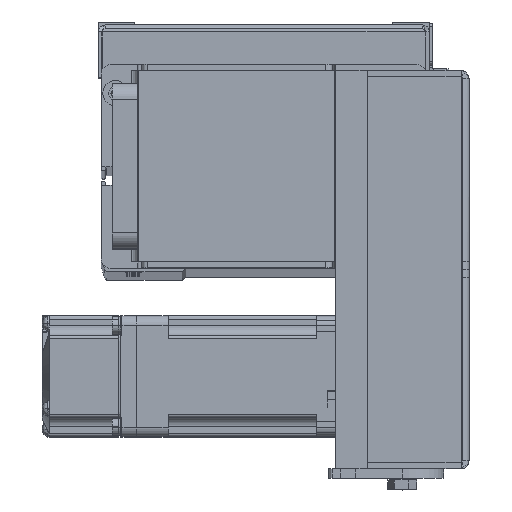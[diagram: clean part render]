
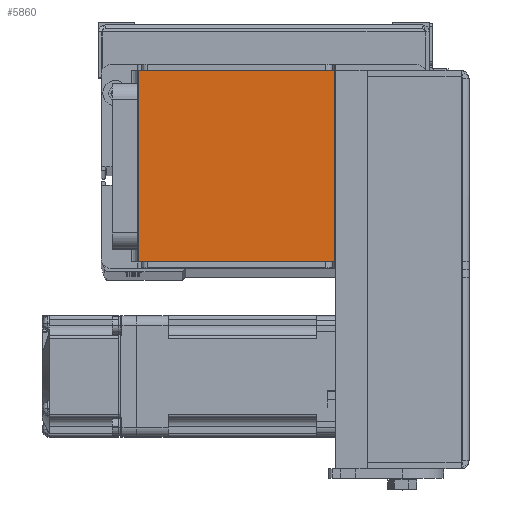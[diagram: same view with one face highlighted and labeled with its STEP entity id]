
A CAD part, top view. The second image highlights one B-rep face of the part: STEP entity #5860.
In plain terms, the highlighted planar face has unit normal (0, 0, 1) as drawn and (0, 1, 0) by its records, which use the part's own axes.
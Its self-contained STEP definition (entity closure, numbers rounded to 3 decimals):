
#273 = DIRECTION ( 'NONE',  ( -1., 0., 0. ) ) ;
#900 = CARTESIAN_POINT ( 'NONE',  ( 30.7, 88., -62. ) ) ;
#1392 = EDGE_LOOP ( 'NONE', ( #33247, #26421, #7374, #23462 ) ) ;
#2442 = LINE ( 'NONE', #35911, #36055 ) ;
#3144 = CARTESIAN_POINT ( 'NONE',  ( -30.7, 88., -2. ) ) ;
#3317 = CARTESIAN_POINT ( 'NONE',  ( 30.7, 88., -2. ) ) ;
#5860 = ADVANCED_FACE ( 'NONE', ( #19917 ), #10513, .T. ) ;
#7374 = ORIENTED_EDGE ( 'NONE', *, *, #16555, .F. ) ;
#8358 = DIRECTION ( 'NONE',  ( -1., 0., 0. ) ) ;
#8970 = CARTESIAN_POINT ( 'NONE',  ( -30.7, 88., -64. ) ) ;
#9465 = LINE ( 'NONE', #18679, #11830 ) ;
#10513 = PLANE ( 'NONE',  #32437 ) ;
#11830 = VECTOR ( 'NONE', #20843, 1000. ) ;
#12606 = CARTESIAN_POINT ( 'NONE',  ( -31., 88., -2. ) ) ;
#14234 = CARTESIAN_POINT ( 'NONE',  ( 30.7, 88., -64. ) ) ;
#15377 = EDGE_CURVE ( 'NONE', #23894, #29988, #9465, .T. ) ;
#16555 = EDGE_CURVE ( 'NONE', #24036, #37164, #30602, .T. ) ;
#18679 = CARTESIAN_POINT ( 'NONE',  ( -31., 88., -62. ) ) ;
#19412 = VECTOR ( 'NONE', #273, 1000. ) ;
#19917 = FACE_OUTER_BOUND ( 'NONE', #1392, .T. ) ;
#20843 = DIRECTION ( 'NONE',  ( 1., 0., 0. ) ) ;
#23462 = ORIENTED_EDGE ( 'NONE', *, *, #34583, .F. ) ;
#23609 = DIRECTION ( 'NONE',  ( 0., 0., 1. ) ) ;
#23894 = VERTEX_POINT ( 'NONE', #28446 ) ;
#24036 = VERTEX_POINT ( 'NONE', #3317 ) ;
#26171 = DIRECTION ( 'NONE',  ( 0., 0., 1. ) ) ;
#26421 = ORIENTED_EDGE ( 'NONE', *, *, #33140, .T. ) ;
#28446 = CARTESIAN_POINT ( 'NONE',  ( -30.7, 88., -62. ) ) ;
#29988 = VERTEX_POINT ( 'NONE', #900 ) ;
#30602 = LINE ( 'NONE', #12606, #19412 ) ;
#31841 = DIRECTION ( 'NONE',  ( 0., 1., 0. ) ) ;
#32437 = AXIS2_PLACEMENT_3D ( 'NONE', #14234, #31841, #8358 ) ;
#32837 = LINE ( 'NONE', #8970, #33559 ) ;
#33140 = EDGE_CURVE ( 'NONE', #23894, #37164, #32837, .T. ) ;
#33247 = ORIENTED_EDGE ( 'NONE', *, *, #15377, .F. ) ;
#33559 = VECTOR ( 'NONE', #26171, 1000. ) ;
#34583 = EDGE_CURVE ( 'NONE', #29988, #24036, #2442, .T. ) ;
#35911 = CARTESIAN_POINT ( 'NONE',  ( 30.7, 88., -64. ) ) ;
#36055 = VECTOR ( 'NONE', #23609, 1000. ) ;
#37164 = VERTEX_POINT ( 'NONE', #3144 ) ;
